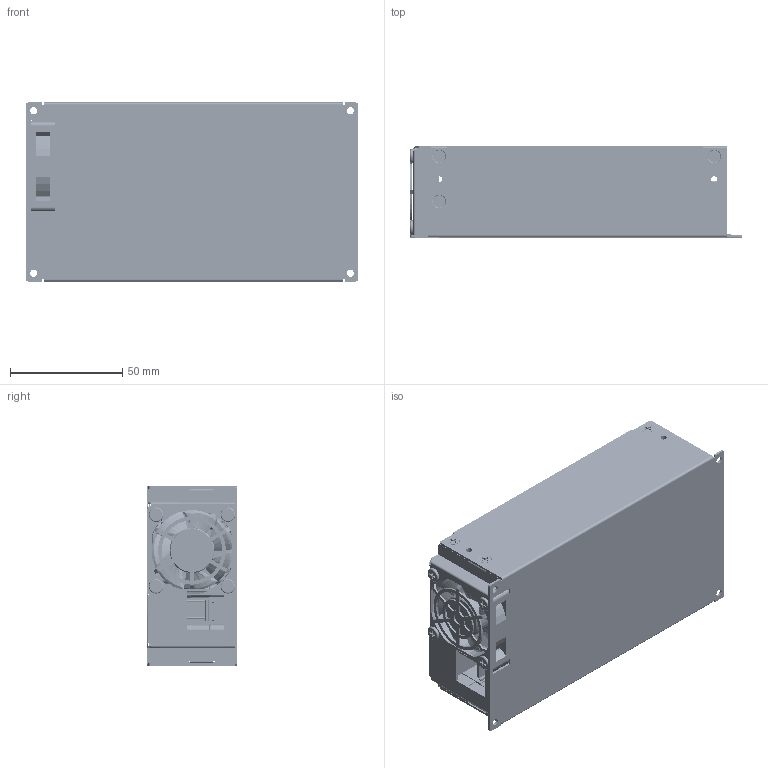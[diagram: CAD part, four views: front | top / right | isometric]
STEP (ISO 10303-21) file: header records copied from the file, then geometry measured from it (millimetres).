
FILE_DESCRIPTION (( 'STEP AP214' ), '1' );
FILE_NAME ('ECH450PS12-24-EF (CD 25-AUG-2023).STEP', '2023-08-25T16:13:43', ( '' ), ( '' ), 'SwSTEP 2.0', 'SolidWorks 2020', '' );
FILE_SCHEMA (( 'AUTOMOTIVE_DESIGN' ));
Length unit declared in the file: metre
Products named in the file (57): JST_V3P2_VH_RIGHT_ANGLE; PCB2; 85D7BU8061_BD1; PCB3; ECH450-EF_IN_CASE_BOT_ASM; ECH450PS12-24-EF (CD 25-AUG-2023); HS-SR; L201; 10X19_2; 3340030201_M3NUT; CAP_30X32MM; 11X6_5X5; 3PIN_PITCH2_0; ECH450-EF_HSK02; BSO_M3X4_5; L2; 6_3X6; I3_5X6TAPNI; GLASS_TYPE; T1; 58C77-1025_Y1_BEADCORE; LDPIN01; HEADER_X6PIN; TEMP; R3140104045_CN2; HEADER_R36BA37_001; 3320030082_M3X8; 16X9X9; 21014-0030_FG; C21; F3X4ISONI; PCB1; 58C77-1025_Y1; P2_6X4; 86K18N60M2_Q2Q3; M3_THREADED_STAENDOFFS; P3X6; C19; 8X16; ECH450-EF_HSK01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
Assembly tree (97 placements, depth 4):
  ECH450PS12-24-EF (CD 25-AUG-2023)
    ECH450-EF_IN_CASE_BOT_ASM
      ECH450-EF-IN_CASE_BOT
      BSO_M3X4_5  x4
    ECH450-EF_IN_FRPP
    ECH450-EF_ASM
      ECH450-EF_PCB
      ECH450-EF_HSK01
        ECH450-EF_HSK01
        LDPIN01  x2
      ECH450-EF_HSK02
        ECH450-EF_HSK02
        LDPIN01  x2
      21014-0030_FG
      CAP_30X32MM
      85D7BU8061_BD1
      86K18N60M2_Q2Q3  x5
      3320030082_M3X8  x6
      3340030201_M3NUT  x7
      830A6069HZ
      58C77-1025_Y1_BEADCORE
      58C77-1025_Y1  x5
      C21  x2
      C3
      C19
      11X6_5X5
      L2
      RIGHT_ANGLE
      16X9X9
      GLASS_TYPE  x2
      32_5X28X30_5
      R3140104045_CN2
      10X19_2  x3
      8X16
      TEMP
      PCB1
      HS-SR
      P3X6  x2
      P2_6X4
      PCB2
      HEADER_R36BA37_001
      L301
      C30
      PCB3
      5_2X10_5_RIGHT_ANGLE
      HEADER_X6PIN
      3PIN_PITCH2_0
      L201
      T201
      ATX_10PIN
      T1
      6_3X6
      M3_THREADED_STAENDOFFS
      JST_V3P2_VH_RIGHT_ANGLE
    ECH450-EF_CASE_IN_TOP
    4010_FAN
    F3X4ISONI  x5
    I3_5X6TAPNI  x4
    P3X6  x4
Bounding box: 148.2 x 40.6 x 80 mm (x, y, z)
Volume: 150262.9 mm3; surface area: 240167 mm2
Topology: 125 solids, 132 shells, 4793 faces, 11752 edges, 7278 vertices
Faces by surface type: plane 2368, bspline 1440, cylinder 758, cone 203, torus 24
Entity records: 237587 total; most frequent: CARTESIAN_POINT 153471, ORIENTED_EDGE 18228, DIRECTION 14894, EDGE_CURVE 9119, VERTEX_POINT 5612, AXIS2_PLACEMENT_3D 5027, LINE 4840, VECTOR 4840
